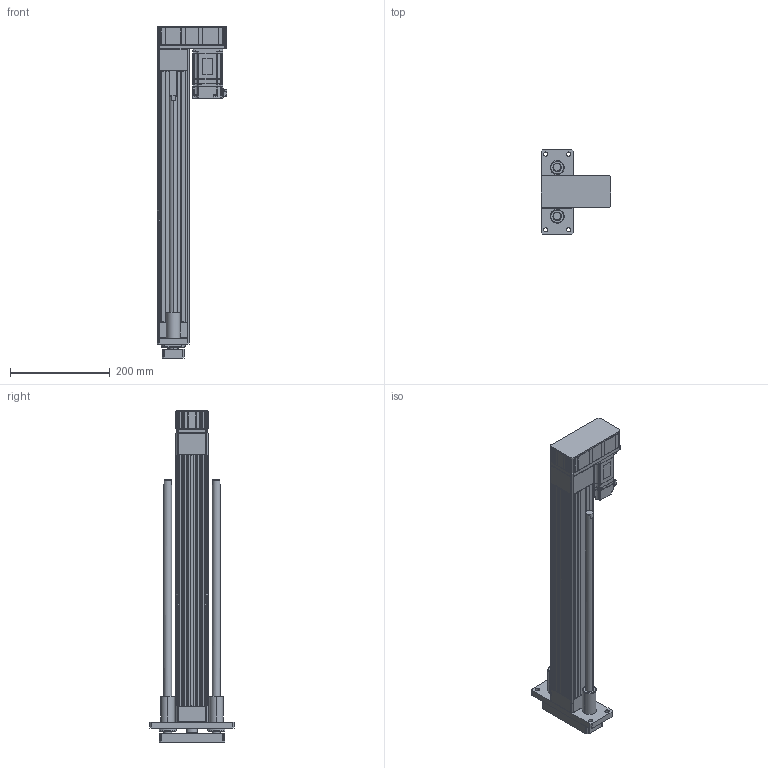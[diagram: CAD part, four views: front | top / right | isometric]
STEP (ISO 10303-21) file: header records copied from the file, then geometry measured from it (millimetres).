
FILE_DESCRIPTION (( 'STEP AP203' ), '1' );
FILE_NAME ('ANS065R-GP400-05(10)(20)-W40.STEP', '2019-03-01T09:01:35', ( 'user' ), ( '' ), 'SwSTEP 2.0', 'SolidWorks 2013', '' );
FILE_SCHEMA (( 'CONFIG_CONTROL_DESIGN' ));
Length unit declared in the file: millimetre
Products named in the file (4): ANS065R GP400 VER2; ANS065 ROD ST400 G; sgmjv_04a_a21; ANS065R-GP400-05(10)(20)-W40
Assembly tree (3 placements, depth 2):
  ANS065R-GP400-05(10)(20)-W40
    ANS065R GP400 VER2
    ANS065 ROD ST400 G
    sgmjv_04a_a21
Bounding box: 140.3 x 170 x 666 mm (x, y, z)
Volume: 2348600.1 mm3; surface area: 596976 mm2
Topology: 3 solids, 19 shells, 1720 faces, 4439 edges, 2846 vertices
Faces by surface type: plane 1030, cylinder 504, cone 182, torus 4
Entity records: 52345 total; most frequent: CARTESIAN_POINT 9317, DIRECTION 8915, ORIENTED_EDGE 8830, EDGE_CURVE 4415, VECTOR 3163, LINE 3163, AXIS2_PLACEMENT_3D 2876, VERTEX_POINT 2846
